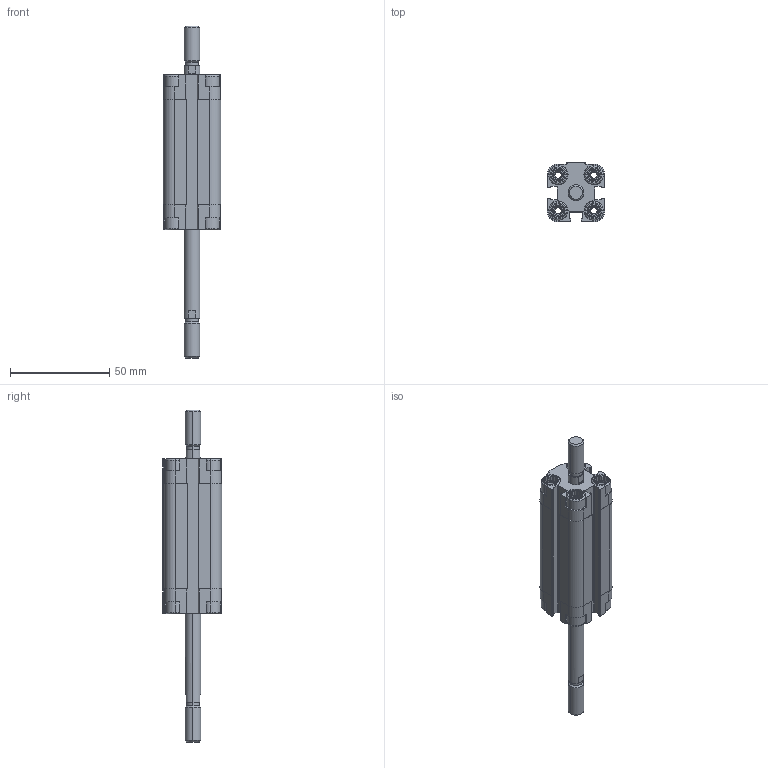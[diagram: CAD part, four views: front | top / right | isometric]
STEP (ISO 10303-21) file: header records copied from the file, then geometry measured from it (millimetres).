
FILE_DESCRIPTION (( 'STEP AP203' ), '1' );
FILE_NAME ('CDVU16-40M-P.STEP', '2020-07-21T15:04:57', ( '' ), ( '' ), 'SwSTEP 2.0', 'SolidWorks 2019', '' );
FILE_SCHEMA (( 'CONFIG_CONTROL_DESIGN' ));
Length unit declared in the file: millimetre
Products named in the file (1): CDVU16-40M-P
Bounding box: 29 x 30 x 167 mm (x, y, z)
Volume: 47318.3 mm3; surface area: 27463.8 mm2
Topology: 2 solids, 2 shells, 566 faces, 1504 edges, 978 vertices
Faces by surface type: plane 338, cylinder 164, cone 48, torus 16
Entity records: 17771 total; most frequent: CARTESIAN_POINT 3621, ORIENTED_EDGE 3000, DIRECTION 2850, EDGE_CURVE 1500, VERTEX_POINT 978, AXIS2_PLACEMENT_3D 975, LINE 900, VECTOR 900
